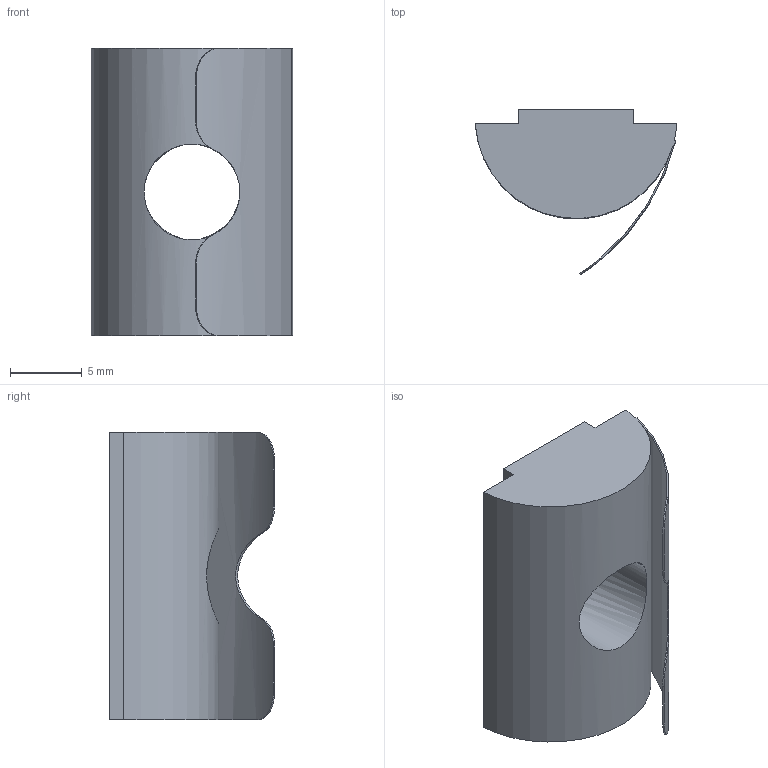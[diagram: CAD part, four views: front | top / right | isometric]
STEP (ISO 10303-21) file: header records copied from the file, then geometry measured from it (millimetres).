
FILE_DESCRIPTION((''),'2;1');
FILE_NAME('E:\catalogue and flyer\Profile catalogue 2015\Accessories JE info\Accessories-JE step file 31MAr16\JE-SN8-8_4040.stp','2016-03-31T16:51:50',('h029'),(''),'Autodesk Inventor 11','Autodesk Inventor 11','');
FILE_SCHEMA(('AUTOMOTIVE_DESIGN { 1 0 10303 214 1 1 1 1 }'));
Length unit declared in the file: millimetre
Products named in the file (1): JE-SN8-8_4040
Bounding box: 14 x 11.49 x 20 mm (x, y, z)
Volume: 1352.5 mm3; surface area: 1388.4 mm2
Topology: 1 solids, 1 shells, 21 faces, 57 edges, 38 vertices
Faces by surface type: plane 10, cylinder 6, bspline 4, cone 1
Entity records: 938 total; most frequent: CARTESIAN_POINT 414, ORIENTED_EDGE 108, DIRECTION 93, EDGE_CURVE 54, VERTEX_POINT 37, AXIS2_PLACEMENT_3D 32, VECTOR 29, LINE 29
